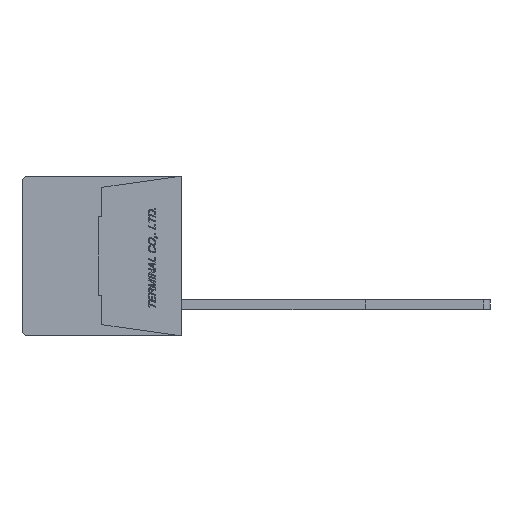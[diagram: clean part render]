
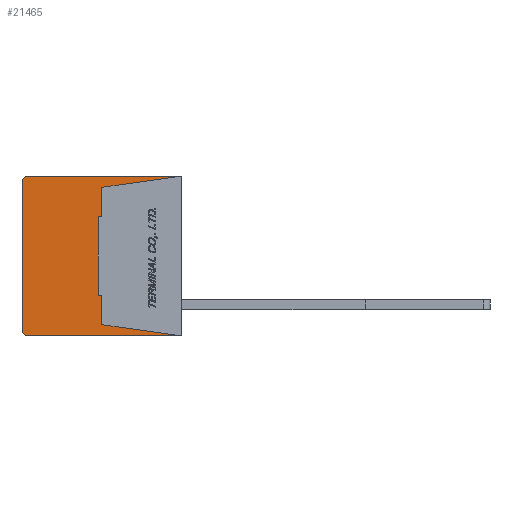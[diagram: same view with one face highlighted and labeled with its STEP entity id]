
A CAD part, left-side view. The second image highlights one B-rep face of the part: STEP entity #21465.
In plain terms, the highlighted planar face has unit normal (-1, 0, 0).
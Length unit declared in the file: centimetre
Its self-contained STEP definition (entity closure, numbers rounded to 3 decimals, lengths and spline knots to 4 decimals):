
#1115=CIRCLE('',#36610,0.05);
#1116=CIRCLE('',#36613,0.05);
#1988=VERTEX_POINT('',#30069);
#1989=VERTEX_POINT('',#30071);
#1990=VERTEX_POINT('',#30075);
#1991=VERTEX_POINT('',#30079);
#1992=VERTEX_POINT('',#30083);
#1993=VERTEX_POINT('',#30087);
#1994=VERTEX_POINT('',#30091);
#1995=VERTEX_POINT('',#30093);
#1996=VERTEX_POINT('',#30095);
#1997=VERTEX_POINT('',#30097);
#1998=VERTEX_POINT('',#30099);
#1999=VERTEX_POINT('',#30101);
#4273=VECTOR('',#24861,1.);
#4277=VECTOR('',#24870,1.);
#4280=VECTOR('',#24878,1.);
#4281=VECTOR('',#24880,1.);
#4282=VECTOR('',#24881,1.);
#4283=VECTOR('',#24882,1.);
#4284=VECTOR('',#24883,1.);
#4285=VECTOR('',#24884,1.);
#4286=VECTOR('',#24885,1.);
#4287=VECTOR('',#24886,1.);
#6800=LINE('',#30070,#4273);
#6804=LINE('',#30080,#4277);
#6807=LINE('',#30088,#4280);
#6808=LINE('',#30090,#4281);
#6809=LINE('',#30092,#4282);
#6810=LINE('',#30094,#4283);
#6811=LINE('',#30096,#4284);
#6812=LINE('',#30098,#4285);
#6813=LINE('',#30100,#4286);
#6814=LINE('',#30102,#4287);
#9625=EDGE_CURVE('',#1989,#1988,#6800,.T.);
#9628=EDGE_CURVE('',#1990,#1988,#1115,.T.);
#9630=EDGE_CURVE('',#1990,#1991,#6804,.T.);
#9632=EDGE_CURVE('',#1992,#1991,#1116,.T.);
#9634=EDGE_CURVE('',#1992,#1993,#6807,.T.);
#9635=EDGE_CURVE('',#1994,#1989,#6808,.T.);
#9636=EDGE_CURVE('',#1993,#1995,#6809,.T.);
#9637=EDGE_CURVE('',#1995,#1996,#6810,.T.);
#9638=EDGE_CURVE('',#1996,#1997,#6811,.T.);
#9639=EDGE_CURVE('',#1997,#1998,#6812,.T.);
#9640=EDGE_CURVE('',#1998,#1999,#6813,.T.);
#9641=EDGE_CURVE('',#1999,#1994,#6814,.T.);
#14073=ORIENTED_EDGE('',*,*,#9635,.T.);
#14074=ORIENTED_EDGE('',*,*,#9625,.T.);
#14075=ORIENTED_EDGE('',*,*,#9628,.F.);
#14076=ORIENTED_EDGE('',*,*,#9630,.T.);
#14077=ORIENTED_EDGE('',*,*,#9632,.F.);
#14078=ORIENTED_EDGE('',*,*,#9634,.T.);
#14079=ORIENTED_EDGE('',*,*,#9636,.T.);
#14080=ORIENTED_EDGE('',*,*,#9637,.T.);
#14081=ORIENTED_EDGE('',*,*,#9638,.T.);
#14082=ORIENTED_EDGE('',*,*,#9639,.T.);
#14083=ORIENTED_EDGE('',*,*,#9640,.T.);
#14084=ORIENTED_EDGE('',*,*,#9641,.T.);
#18706=EDGE_LOOP('',(#14073,#14074,#14075,#14076,#14077,#14078,#14079,#14080,
#14081,#14082,#14083,#14084));
#20121=FACE_BOUND('',#18706,.T.);
#21465=ADVANCED_FACE('',(#20121),#22609,.F.);
#22609=PLANE('',#36615);
#24861=DIRECTION('',(0.,1.,0.));
#24866=DIRECTION('',(1.,0.,0.));
#24867=DIRECTION('',(0.,0.,-0.05));
#24870=DIRECTION('',(0.,0.,-1.));
#24874=DIRECTION('',(1.,0.,0.));
#24875=DIRECTION('',(0.,0.,-0.05));
#24878=DIRECTION('',(0.,-1.,0.));
#24879=DIRECTION('',(1.,0.,0.));
#24880=DIRECTION('',(0.,-0.99,0.139));
#24881=DIRECTION('',(0.,0.99,0.139));
#24882=DIRECTION('',(0.,0.,1.));
#24883=DIRECTION('',(0.,1.,0.));
#24884=DIRECTION('',(0.,0.,1.));
#24885=DIRECTION('',(0.,-1.,0.));
#24886=DIRECTION('',(0.,0.,1.));
#30069=CARTESIAN_POINT('',(-1.,1.23,0.64));
#30070=CARTESIAN_POINT('',(-1.,0.,0.64));
#30071=CARTESIAN_POINT('',(-1.,0.,0.64));
#30075=CARTESIAN_POINT('',(-1.,1.28,0.59));
#30076=CARTESIAN_POINT('',(-1.,1.23,0.59));
#30079=CARTESIAN_POINT('',(-1.,1.28,-0.59));
#30080=CARTESIAN_POINT('',(-1.,1.28,0.59));
#30083=CARTESIAN_POINT('',(-1.,1.23,-0.64));
#30084=CARTESIAN_POINT('',(-1.,1.23,-0.59));
#30087=CARTESIAN_POINT('',(-1.,0.,-0.64));
#30088=CARTESIAN_POINT('',(-1.,1.23,-0.64));
#30089=CARTESIAN_POINT('',(-1.,0.6345,0.));
#30090=CARTESIAN_POINT('',(-1.,0.64,0.55));
#30091=CARTESIAN_POINT('',(-1.,0.64,0.55));
#30092=CARTESIAN_POINT('',(-1.,0.,-0.64));
#30093=CARTESIAN_POINT('',(-1.,0.64,-0.55));
#30094=CARTESIAN_POINT('',(-1.,0.64,-0.55));
#30095=CARTESIAN_POINT('',(-1.,0.64,-0.315));
#30096=CARTESIAN_POINT('',(-1.,0.64,-0.315));
#30097=CARTESIAN_POINT('',(-1.,0.67,-0.315));
#30098=CARTESIAN_POINT('',(-1.,0.67,-0.315));
#30099=CARTESIAN_POINT('',(-1.,0.67,0.315));
#30100=CARTESIAN_POINT('',(-1.,0.67,0.315));
#30101=CARTESIAN_POINT('',(-1.,0.64,0.315));
#30102=CARTESIAN_POINT('',(-1.,0.64,0.315));
#36610=AXIS2_PLACEMENT_3D('',#30076,#24866,#24867);
#36613=AXIS2_PLACEMENT_3D('',#30084,#24874,#24875);
#36615=AXIS2_PLACEMENT_3D('',#30089,#24879,$);
